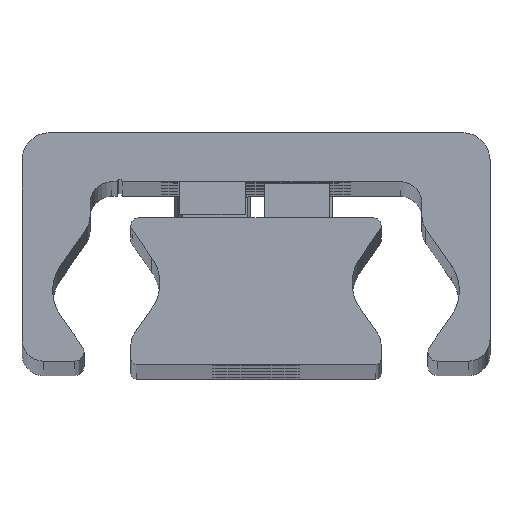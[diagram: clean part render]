
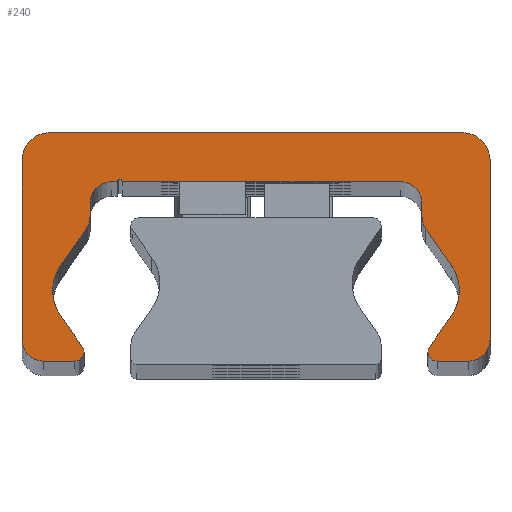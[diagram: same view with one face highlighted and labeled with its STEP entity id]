
A CAD part, top view. The second image highlights one B-rep face of the part: STEP entity #240.
In plain terms, the highlighted planar face has unit normal (0, 0, 1).
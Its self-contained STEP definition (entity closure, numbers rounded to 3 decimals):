
#240=ADVANCED_FACE('',(#638),#639,.T.);
#638=FACE_OUTER_BOUND('',#1037,.T.);
#639=PLANE('',#1038);
#1037=EDGE_LOOP('',(#2394,#2395,#2396,#2397,#2398,#2399,#2400,#2401,#2402,#2403,#2404,#2405,#2406,#2407,#2408,#2409,#2410,#2411,#2412,#2413,#2414,#2415,#2416,#2417,#2418,#2419,#2420,#2421,#2422,#2423));
#1038=AXIS2_PLACEMENT_3D('',#2424,#2425,#2426);
#2394=ORIENTED_EDGE('',*,*,#2699,.F.);
#2395=ORIENTED_EDGE('',*,*,#2902,.F.);
#2396=ORIENTED_EDGE('',*,*,#2685,.F.);
#2397=ORIENTED_EDGE('',*,*,#2901,.F.);
#2398=ORIENTED_EDGE('',*,*,#2897,.F.);
#2399=ORIENTED_EDGE('',*,*,#2894,.F.);
#2400=ORIENTED_EDGE('',*,*,#2891,.F.);
#2401=ORIENTED_EDGE('',*,*,#2888,.F.);
#2402=ORIENTED_EDGE('',*,*,#2885,.F.);
#2403=ORIENTED_EDGE('',*,*,#2882,.F.);
#2404=ORIENTED_EDGE('',*,*,#2879,.F.);
#2405=ORIENTED_EDGE('',*,*,#2876,.F.);
#2406=ORIENTED_EDGE('',*,*,#2873,.F.);
#2407=ORIENTED_EDGE('',*,*,#2870,.F.);
#2408=ORIENTED_EDGE('',*,*,#2691,.F.);
#2409=ORIENTED_EDGE('',*,*,#2868,.F.);
#2410=ORIENTED_EDGE('',*,*,#2693,.F.);
#2411=ORIENTED_EDGE('',*,*,#2867,.F.);
#2412=ORIENTED_EDGE('',*,*,#2863,.F.);
#2413=ORIENTED_EDGE('',*,*,#2860,.F.);
#2414=ORIENTED_EDGE('',*,*,#2857,.F.);
#2415=ORIENTED_EDGE('',*,*,#2854,.F.);
#2416=ORIENTED_EDGE('',*,*,#2851,.F.);
#2417=ORIENTED_EDGE('',*,*,#2848,.F.);
#2418=ORIENTED_EDGE('',*,*,#2845,.F.);
#2419=ORIENTED_EDGE('',*,*,#2842,.F.);
#2420=ORIENTED_EDGE('',*,*,#2839,.F.);
#2421=ORIENTED_EDGE('',*,*,#2836,.F.);
#2422=ORIENTED_EDGE('',*,*,#2833,.F.);
#2423=ORIENTED_EDGE('',*,*,#2830,.F.);
#2424=CARTESIAN_POINT('',(-0.023,14.187,372.0));
#2425=DIRECTION('',(0.0,0.0,1.0));
#2426=DIRECTION('',(1.0,0.0,0.0));
#2685=EDGE_CURVE('',#3264,#3267,#3268,.T.);
#2691=EDGE_CURVE('',#3277,#3273,#3279,.T.);
#2693=EDGE_CURVE('',#3280,#3283,#3284,.T.);
#2699=EDGE_CURVE('',#3293,#3289,#3295,.T.);
#2830=EDGE_CURVE('',#3289,#3506,#3507,.T.);
#2833=EDGE_CURVE('',#3506,#3511,#3512,.T.);
#2836=EDGE_CURVE('',#3511,#3516,#3517,.T.);
#2839=EDGE_CURVE('',#3516,#3521,#3522,.T.);
#2842=EDGE_CURVE('',#3521,#3526,#3527,.T.);
#2845=EDGE_CURVE('',#3526,#3531,#3532,.T.);
#2848=EDGE_CURVE('',#3531,#3536,#3537,.T.);
#2851=EDGE_CURVE('',#3536,#3541,#3542,.T.);
#2854=EDGE_CURVE('',#3541,#3546,#3547,.T.);
#2857=EDGE_CURVE('',#3546,#3551,#3552,.T.);
#2860=EDGE_CURVE('',#3551,#3556,#3557,.T.);
#2863=EDGE_CURVE('',#3556,#3561,#3562,.T.);
#2867=EDGE_CURVE('',#3561,#3280,#3567,.T.);
#2868=EDGE_CURVE('',#3283,#3277,#3568,.T.);
#2870=EDGE_CURVE('',#3273,#3570,#3571,.T.);
#2873=EDGE_CURVE('',#3570,#3575,#3576,.T.);
#2876=EDGE_CURVE('',#3575,#3580,#3581,.T.);
#2879=EDGE_CURVE('',#3580,#3585,#3586,.T.);
#2882=EDGE_CURVE('',#3585,#3590,#3591,.T.);
#2885=EDGE_CURVE('',#3590,#3595,#3596,.T.);
#2888=EDGE_CURVE('',#3595,#3600,#3601,.T.);
#2891=EDGE_CURVE('',#3600,#3605,#3606,.T.);
#2894=EDGE_CURVE('',#3605,#3610,#3611,.T.);
#2897=EDGE_CURVE('',#3610,#3615,#3616,.T.);
#2901=EDGE_CURVE('',#3615,#3264,#3621,.T.);
#2902=EDGE_CURVE('',#3267,#3293,#3622,.T.);
#3264=VERTEX_POINT('',#4104);
#3267=VERTEX_POINT('',#4108);
#3268=CIRCLE('',#4109,0.85);
#3273=VERTEX_POINT('',#4115);
#3277=VERTEX_POINT('',#4120);
#3279=CIRCLE('',#4123,0.85);
#3280=VERTEX_POINT('',#4124);
#3283=VERTEX_POINT('',#4128);
#3284=CIRCLE('',#4129,4.);
#3289=VERTEX_POINT('',#4135);
#3293=VERTEX_POINT('',#4140);
#3295=CIRCLE('',#4143,4.);
#3506=VERTEX_POINT('',#4420);
#3507=CIRCLE('',#4421,4.);
#3511=VERTEX_POINT('',#4426);
#3512=LINE('',#4427,#4428);
#3516=VERTEX_POINT('',#4434);
#3517=CIRCLE('',#4435,2.);
#3521=VERTEX_POINT('',#4440);
#3522=LINE('',#4441,#4442);
#3526=VERTEX_POINT('',#4448);
#3527=CIRCLE('',#4449,2.0);
#3531=VERTEX_POINT('',#4454);
#3532=LINE('',#4455,#4456);
#3536=VERTEX_POINT('',#4462);
#3537=CIRCLE('',#4463,0.25);
#3541=VERTEX_POINT('',#4468);
#3542=LINE('',#4469,#4470);
#3546=VERTEX_POINT('',#4476);
#3547=CIRCLE('',#4477,2.0);
#3551=VERTEX_POINT('',#4482);
#3552=LINE('',#4483,#4484);
#3556=VERTEX_POINT('',#4490);
#3557=CIRCLE('',#4491,2.0);
#3561=VERTEX_POINT('',#4496);
#3562=LINE('',#4497,#4498);
#3567=CIRCLE('',#4505,4.);
#3568=LINE('',#4506,#4507);
#3570=VERTEX_POINT('',#4510);
#3571=CIRCLE('',#4511,0.85);
#3575=VERTEX_POINT('',#4516);
#3576=LINE('',#4517,#4518);
#3580=VERTEX_POINT('',#4524);
#3581=CIRCLE('',#4525,2.);
#3585=VERTEX_POINT('',#4530);
#3586=LINE('',#4531,#4532);
#3590=VERTEX_POINT('',#4538);
#3591=CIRCLE('',#4539,2.5);
#3595=VERTEX_POINT('',#4544);
#3596=LINE('',#4545,#4546);
#3600=VERTEX_POINT('',#4552);
#3601=CIRCLE('',#4553,2.5);
#3605=VERTEX_POINT('',#4558);
#3606=LINE('',#4559,#4560);
#3610=VERTEX_POINT('',#4566);
#3611=CIRCLE('',#4567,2.);
#3615=VERTEX_POINT('',#4572);
#3616=LINE('',#4573,#4574);
#3621=CIRCLE('',#4581,0.85);
#3622=LINE('',#4582,#4583);
#4104=CARTESIAN_POINT('',(15.8,1.859,372.0));
#4108=CARTESIAN_POINT('',(15.922,2.298,372.0));
#4109=AXIS2_PLACEMENT_3D('',#5019,#5020,#5021);
#4115=CARTESIAN_POINT('',(-15.8,1.859,372.0));
#4120=CARTESIAN_POINT('',(-15.922,2.298,372.0));
#4123=AXIS2_PLACEMENT_3D('',#5031,#5032,#5033);
#4124=CARTESIAN_POINT('',(-18.688,7.509,372.0));
#4128=CARTESIAN_POINT('',(-17.964,5.214,372.0));
#4129=AXIS2_PLACEMENT_3D('',#5035,#5036,#5037);
#4135=CARTESIAN_POINT('',(18.688,7.509,372.0));
#4140=CARTESIAN_POINT('',(17.964,5.214,372.0));
#4143=AXIS2_PLACEMENT_3D('',#5047,#5048,#5049);
#4420=CARTESIAN_POINT('',(17.964,9.803,372.0));
#4421=AXIS2_PLACEMENT_3D('',#5308,#5309,#5310);
#4426=CARTESIAN_POINT('',(15.612,13.163,372.0));
#4427=CARTESIAN_POINT('',(15.612,13.163,372.0));
#4428=VECTOR('',#5315,1.0);
#4434=CARTESIAN_POINT('',(15.25,14.31,372.0));
#4435=AXIS2_PLACEMENT_3D('',#5318,#5319,#5320);
#4440=CARTESIAN_POINT('',(15.25,15.509,372.0));
#4441=CARTESIAN_POINT('',(15.25,15.509,372.0));
#4442=VECTOR('',#5325,1.0);
#4448=CARTESIAN_POINT('',(13.25,17.509,372.0));
#4449=AXIS2_PLACEMENT_3D('',#5328,#5329,#5330);
#4454=CARTESIAN_POINT('',(-12.25,17.509,372.0));
#4455=CARTESIAN_POINT('',(-12.25,17.509,372.0));
#4456=VECTOR('',#5335,1.0);
#4462=CARTESIAN_POINT('',(-12.75,17.509,372.0));
#4463=AXIS2_PLACEMENT_3D('',#5338,#5339,#5340);
#4468=CARTESIAN_POINT('',(-13.25,17.509,372.0));
#4469=CARTESIAN_POINT('',(-13.25,17.509,372.0));
#4470=VECTOR('',#5345,1.0);
#4476=CARTESIAN_POINT('',(-15.25,15.509,372.0));
#4477=AXIS2_PLACEMENT_3D('',#5348,#5349,#5350);
#4482=CARTESIAN_POINT('',(-15.25,14.31,372.0));
#4483=CARTESIAN_POINT('',(-15.25,14.31,372.0));
#4484=VECTOR('',#5355,1.0);
#4490=CARTESIAN_POINT('',(-15.612,13.163,372.0));
#4491=AXIS2_PLACEMENT_3D('',#5358,#5359,#5360);
#4496=CARTESIAN_POINT('',(-17.964,9.803,372.0));
#4497=CARTESIAN_POINT('',(-17.964,9.803,372.0));
#4498=VECTOR('',#5365,1.);
#4505=AXIS2_PLACEMENT_3D('',#5371,#5372,#5373);
#4506=CARTESIAN_POINT('',(-15.922,2.298,372.0));
#4507=VECTOR('',#5374,1.0);
#4510=CARTESIAN_POINT('',(-16.65,1.009,372.0));
#4511=AXIS2_PLACEMENT_3D('',#5376,#5377,#5378);
#4516=CARTESIAN_POINT('',(-19.5,1.009,372.0));
#4517=CARTESIAN_POINT('',(-19.5,1.009,372.0));
#4518=VECTOR('',#5383,1.0);
#4524=CARTESIAN_POINT('',(-21.5,3.009,372.0));
#4525=AXIS2_PLACEMENT_3D('',#5386,#5387,#5388);
#4530=CARTESIAN_POINT('',(-21.5,19.509,372.0));
#4531=CARTESIAN_POINT('',(-21.5,19.509,372.0));
#4532=VECTOR('',#5393,1.0);
#4538=CARTESIAN_POINT('',(-19.0,22.009,372.0));
#4539=AXIS2_PLACEMENT_3D('',#5396,#5397,#5398);
#4544=CARTESIAN_POINT('',(19.0,22.009,372.0));
#4545=CARTESIAN_POINT('',(19.0,22.009,372.0));
#4546=VECTOR('',#5403,1.0);
#4552=CARTESIAN_POINT('',(21.5,19.509,372.0));
#4553=AXIS2_PLACEMENT_3D('',#5406,#5407,#5408);
#4558=CARTESIAN_POINT('',(21.5,3.009,372.0));
#4559=CARTESIAN_POINT('',(21.5,3.009,372.0));
#4560=VECTOR('',#5413,1.0);
#4566=CARTESIAN_POINT('',(19.5,1.009,372.0));
#4567=AXIS2_PLACEMENT_3D('',#5416,#5417,#5418);
#4572=CARTESIAN_POINT('',(16.65,1.009,372.0));
#4573=CARTESIAN_POINT('',(16.65,1.009,372.0));
#4574=VECTOR('',#5423,1.0);
#4581=AXIS2_PLACEMENT_3D('',#5429,#5430,#5431);
#4582=CARTESIAN_POINT('',(17.964,5.214,372.0));
#4583=VECTOR('',#5432,1.0);
#5019=CARTESIAN_POINT('',(16.65,1.859,372.0));
#5020=DIRECTION('',(0.0,0.0,-1.0));
#5021=DIRECTION('',(1.0,0.0,0.0));
#5031=CARTESIAN_POINT('',(-16.65,1.859,372.0));
#5032=DIRECTION('',(0.0,0.0,-1.0));
#5033=DIRECTION('',(1.0,0.0,0.0));
#5035=CARTESIAN_POINT('',(-14.688,7.509,372.0));
#5036=DIRECTION('',(0.0,0.0,1.0));
#5037=DIRECTION('',(1.0,0.0,0.0));
#5047=CARTESIAN_POINT('',(14.688,7.509,372.0));
#5048=DIRECTION('',(0.0,0.0,1.0));
#5049=DIRECTION('',(1.0,0.0,0.0));
#5308=CARTESIAN_POINT('',(14.688,7.509,372.0));
#5309=DIRECTION('',(0.0,0.0,1.0));
#5310=DIRECTION('',(1.0,0.0,0.0));
#5315=DIRECTION('',(-0.574,0.819,0.0));
#5318=CARTESIAN_POINT('',(17.25,14.31,372.0));
#5319=DIRECTION('',(0.0,0.0,-1.0));
#5320=DIRECTION('',(1.0,0.0,0.0));
#5325=DIRECTION('',(0.0,1.0,0.0));
#5328=CARTESIAN_POINT('',(13.25,15.509,372.0));
#5329=DIRECTION('',(0.0,0.0,1.0));
#5330=DIRECTION('',(1.0,0.0,0.0));
#5335=DIRECTION('',(-1.0,-0.0,-0.0));
#5338=CARTESIAN_POINT('',(-12.5,17.509,372.0));
#5339=DIRECTION('',(0.0,0.0,1.0));
#5340=DIRECTION('',(1.0,0.0,0.0));
#5345=DIRECTION('',(-1.0,-0.0,-0.0));
#5348=CARTESIAN_POINT('',(-13.25,15.509,372.0));
#5349=DIRECTION('',(0.0,0.0,1.0));
#5350=DIRECTION('',(1.0,0.0,0.0));
#5355=DIRECTION('',(-0.0,-1.0,-0.0));
#5358=CARTESIAN_POINT('',(-17.25,14.31,372.0));
#5359=DIRECTION('',(0.0,0.0,-1.0));
#5360=DIRECTION('',(1.0,0.0,0.0));
#5365=DIRECTION('',(-0.574,-0.819,-0.0));
#5371=CARTESIAN_POINT('',(-14.688,7.509,372.0));
#5372=DIRECTION('',(0.0,0.0,1.0));
#5373=DIRECTION('',(1.0,0.0,0.0));
#5374=DIRECTION('',(0.574,-0.819,0.0));
#5376=CARTESIAN_POINT('',(-16.65,1.859,372.0));
#5377=DIRECTION('',(0.0,0.0,-1.0));
#5378=DIRECTION('',(1.0,0.0,0.0));
#5383=DIRECTION('',(-1.0,-0.0,-0.0));
#5386=CARTESIAN_POINT('',(-19.5,3.009,372.0));
#5387=DIRECTION('',(0.0,0.0,-1.0));
#5388=DIRECTION('',(1.0,0.0,0.0));
#5393=DIRECTION('',(0.0,1.0,0.0));
#5396=CARTESIAN_POINT('',(-19.0,19.509,372.0));
#5397=DIRECTION('',(0.0,0.0,-1.0));
#5398=DIRECTION('',(1.0,0.0,0.0));
#5403=DIRECTION('',(1.0,0.0,0.0));
#5406=CARTESIAN_POINT('',(19.0,19.509,372.0));
#5407=DIRECTION('',(0.0,0.0,-1.0));
#5408=DIRECTION('',(1.0,0.0,0.0));
#5413=DIRECTION('',(-0.0,-1.0,-0.0));
#5416=CARTESIAN_POINT('',(19.5,3.009,372.0));
#5417=DIRECTION('',(0.0,0.0,-1.0));
#5418=DIRECTION('',(1.0,0.0,0.0));
#5423=DIRECTION('',(-1.0,-0.0,-0.0));
#5429=CARTESIAN_POINT('',(16.65,1.859,372.0));
#5430=DIRECTION('',(0.0,0.0,-1.0));
#5431=DIRECTION('',(1.0,0.0,0.0));
#5432=DIRECTION('',(0.574,0.819,0.0));
